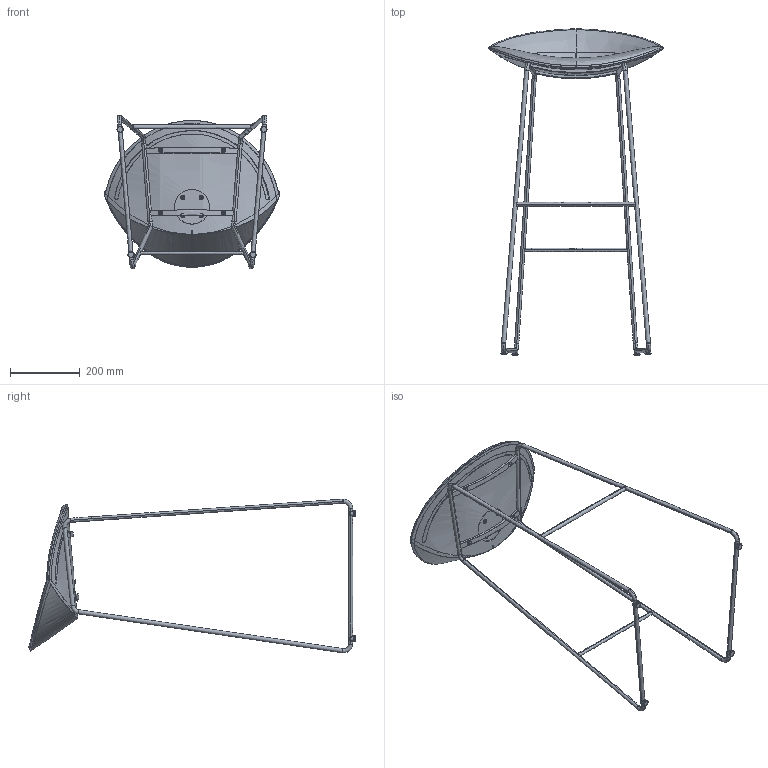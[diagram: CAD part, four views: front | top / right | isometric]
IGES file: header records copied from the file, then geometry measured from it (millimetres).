
Start section: SolidWorks IGES file using analytic representation for surfaces
Global section: file name: G:\Product Info\Mick\3d\igs\Mick bar staf.IGS; native system: SolidWorks 2011; preprocessor: SolidWorks 2011; author: remko; date: 120111.110609; units: millimetre
Bounding box: 505.8 x 938.8 x 442.36 mm (x, y, z)
Surface area: 812435.4 mm2 (no closed solid volume)
Topology: 0 solids, 0 shells, 164 faces, 3639 edges, 3639 vertices
Faces by surface type: bspline 90, revolution 74
